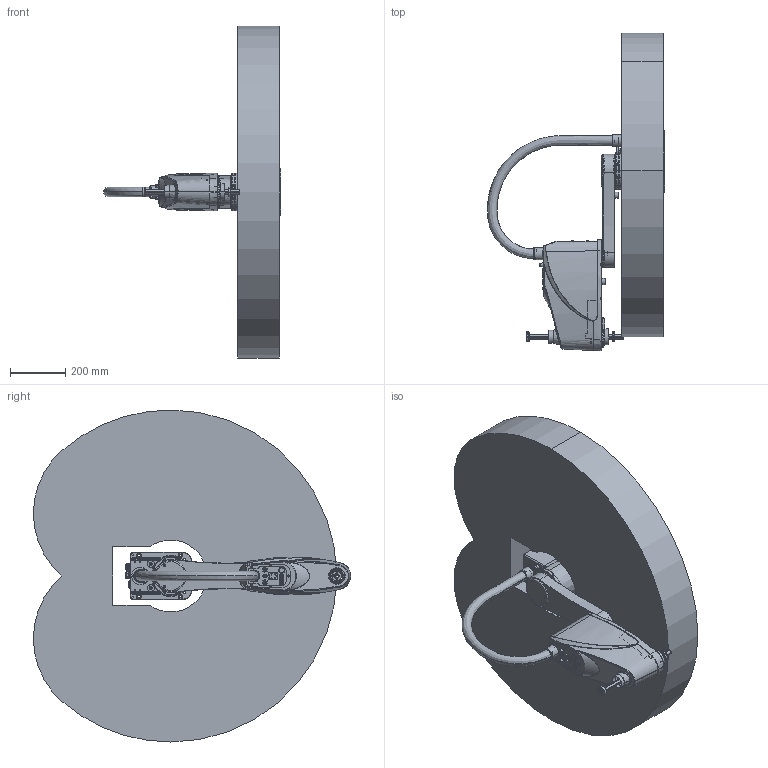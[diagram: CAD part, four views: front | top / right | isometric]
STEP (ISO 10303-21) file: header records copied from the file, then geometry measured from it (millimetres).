
FILE_DESCRIPTION (( 'STEP AP214' ), '1' );
FILE_NAME ('TRH002-600-150-S.STEP', '2025-01-15T09:46:46', ( 'Windows User' ), ( 'P R C' ), 'SwSTEP 2.0', 'SolidWorks 2023', '' );
FILE_SCHEMA (( 'AUTOMOTIVE_DESIGN' ));
Length unit declared in the file: millimetre
Products named in the file (7): 复件 600S_5^TRH002-600-150-S可拖动机器人（SW2023）; 复件 600S_3^TRH002-600-150-S可拖动机器人（SW2023）; 复件 600S_4^TRH002-600-150-S可拖动机器人（SW2023）; TRH002-600-150-S; 复件 复件 TRH002_Space^TRH002-600-150-S可拖动机器人（SW2023）; 复件 600S_2^TRH002-600-150-S可拖动机器人（SW2023）; 复件 600S_1^TRH002-600-150-S可拖动机器人（SW2023）
Assembly tree (6 placements, depth 2):
  TRH002-600-150-S
    复件 600S_1^TRH002-600-150-S可拖动机器人（SW2023）
    复件 600S_2^TRH002-600-150-S可拖动机器人（SW2023）
    复件 600S_3^TRH002-600-150-S可拖动机器人（SW2023）
    复件 600S_4^TRH002-600-150-S可拖动机器人（SW2023）
    复件 600S_5^TRH002-600-150-S可拖动机器人（SW2023）
    复件 复件 TRH002_Space^TRH002-600-150-S可拖动机器人（SW2023）
Bounding box: 640.84 x 1147.17 x 1200 mm (x, y, z)
Volume: 150557204.9 mm3; surface area: 3910578.4 mm2
Topology: 27 solids, 171 shells, 2929 faces, 8103 edges, 5356 vertices
Faces by surface type: cylinder 1289, plane 948, cone 316, bspline 196, torus 164, sphere 16
Entity records: 132654 total; most frequent: CARTESIAN_POINT 57948, DIRECTION 15757, ORIENTED_EDGE 14451, EDGE_CURVE 7930, AXIS2_PLACEMENT_3D 6095, VERTEX_POINT 5345, EDGE_LOOP 3695, VECTOR 3567
